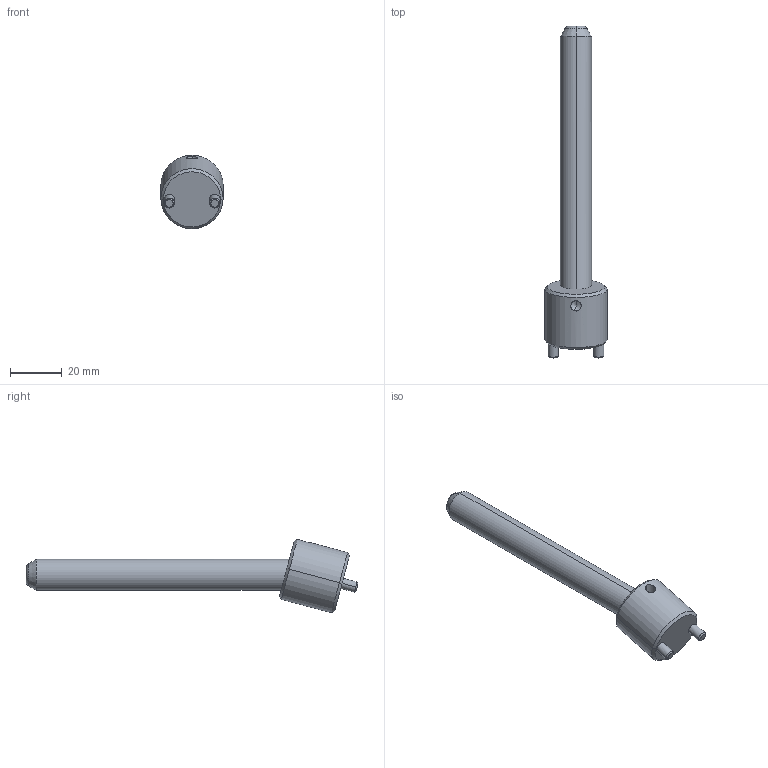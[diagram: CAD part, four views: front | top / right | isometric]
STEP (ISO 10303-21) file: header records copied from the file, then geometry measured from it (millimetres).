
FILE_DESCRIPTION(('CATIA V5 STEP Exchange'),'2;1');
FILE_NAME('C:\Users\Raffaele\Desktop\3D BOLEX\3D FILES CF BOLEX\19-INCLINED ASSEMBLY REF_CI\CI1512100.stp','2019-06-20T13:53:04+00:00',('none'),('none'),'CATIA Version 5 Release 20 GA (IN-10)','CATIA V5 STEP AP203','none');
FILE_SCHEMA(('CONFIG_CONTROL_DESIGN'));
Length unit declared in the file: millimetre
Products named in the file (1): CI1512100
Assembly tree (2 placements, depth 2):
  CI1512100
    #58
    #578
Bounding box: 24 x 128.08 x 28.36 mm (x, y, z)
Volume: 21023.7 mm3; surface area: 7964.8 mm2
Topology: 2 solids, 2 shells, 39 faces, 82 edges, 47 vertices
Faces by surface type: cone 14, cylinder 14, plane 7, torus 4
Entity records: 1458 total; most frequent: CARTESIAN_POINT 599, ORIENTED_EDGE 160, DIRECTION 145, EDGE_CURVE 80, AXIS2_PLACEMENT_3D 72, VERTEX_POINT 47, EDGE_LOOP 43, ADVANCED_FACE 39
